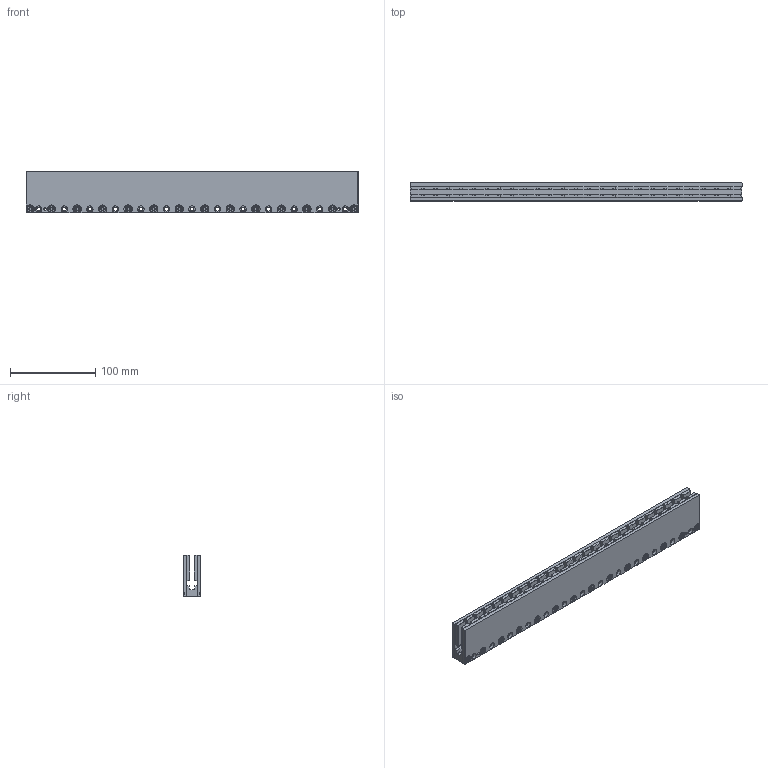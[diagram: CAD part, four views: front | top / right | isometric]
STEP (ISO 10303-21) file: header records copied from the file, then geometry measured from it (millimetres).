
FILE_DESCRIPTION( ( '-' ), '1' );
FILE_NAME( 'C:/Users/peikelboom/Desktop/STEP Files/Ironless/UM/Iron Less_UM 390 mm_MagnetYoke 160607.stp', '20-04-2016', ( 'P.Eikelboom' ), ( 'Technotion' ), 'PSStep 16.0.42', '-', ' ' );
FILE_SCHEMA( ( 'AUTOMOTIVE_DESIGN { 1 0 10303 214 1 1 1 1 }' ) );
Length unit declared in the file: millimetre
Products named in the file (1): 4022 363 50134_130705-oa51
Bounding box: 389.9 x 21.1 x 49 mm (x, y, z)
Surface area: 114411.3 mm2 (no closed solid volume)
Topology: 0 solids, 2399 shells, 2399 faces, 11269 edges, 11012 vertices
Faces by surface type: cylinder 1105, plane 764, bspline 416, cone 114
Full cylindrical faces by diameter (mm): 3 x6, 3.3 x14, 4 x28, 4.5 x41, 7.4 x28, 7.5 x26
Entity records: 136722 total; most frequent: CARTESIAN_POINT 31016, DIRECTION 20204, ORIENTED_EDGE 10868, EDGE_CURVE 10868, VERTEX_POINT 10868, AXIS2_PLACEMENT_3D 7416, CIRCLE 5432, LINE 5372
